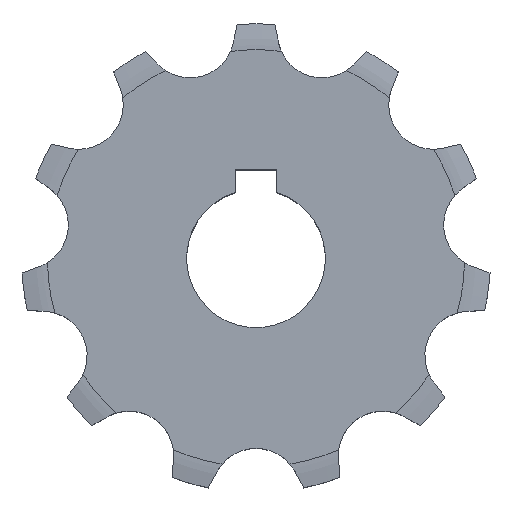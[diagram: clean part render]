
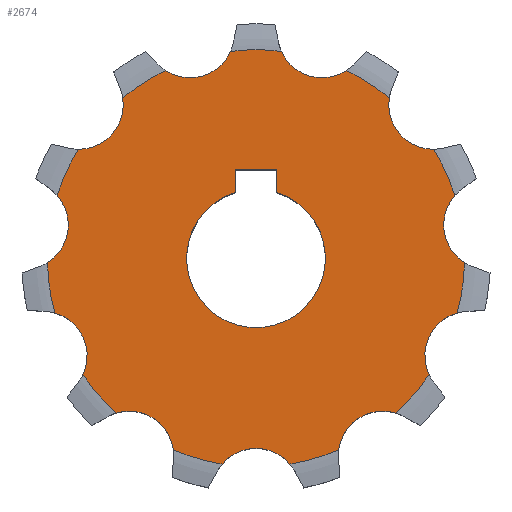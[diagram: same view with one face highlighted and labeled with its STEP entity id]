
A CAD part, top view. The second image highlights one B-rep face of the part: STEP entity #2674.
In plain terms, the highlighted planar face has unit normal (0, 0, 1).
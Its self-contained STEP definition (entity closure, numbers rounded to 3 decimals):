
#33=CARTESIAN_POINT('',(4.763,16.22,2.65));
#34=DIRECTION('',(0.,0.,1.));
#35=DIRECTION('',(-0.914,-0.405,0.));
#36=AXIS2_PLACEMENT_3D('',#33,#34,#35);
#42=CARTESIAN_POINT('',(0.,0.,2.65));
#43=DIRECTION('',(0.,0.,-1.));
#44=DIRECTION('',(0.434,0.901,0.));
#45=AXIS2_PLACEMENT_3D('',#42,#43,#44);
#50=CARTESIAN_POINT('',(12.775,11.07,2.65));
#51=DIRECTION('',(0.,0.,1.));
#52=DIRECTION('',(-0.988,0.154,0.));
#53=AXIS2_PLACEMENT_3D('',#50,#51,#52);
#58=CARTESIAN_POINT('',(0.,0.,2.65));
#59=DIRECTION('',(0.,0.,-1.));
#60=DIRECTION('',(0.852,0.523,0.));
#61=AXIS2_PLACEMENT_3D('',#58,#59,#60);
#66=CARTESIAN_POINT('',(16.732,2.406,2.65));
#67=DIRECTION('',(0.,0.,1.));
#68=DIRECTION('',(-0.748,0.663,0.));
#69=AXIS2_PLACEMENT_3D('',#66,#67,#68);
#74=CARTESIAN_POINT('',(0.,0.,2.65));
#75=DIRECTION('',(0.,0.,-1.));
#76=DIRECTION('',(1.,-0.021,0.));
#77=AXIS2_PLACEMENT_3D('',#74,#75,#76);
#82=CARTESIAN_POINT('',(15.377,-7.022,2.65));
#83=DIRECTION('',(0.,0.,1.));
#84=DIRECTION('',(-0.271,0.963,0.));
#85=AXIS2_PLACEMENT_3D('',#82,#83,#84);
#90=CARTESIAN_POINT('',(0.,0.,2.65));
#91=DIRECTION('',(0.,0.,-1.));
#92=DIRECTION('',(0.83,-0.558,0.));
#93=AXIS2_PLACEMENT_3D('',#90,#91,#92);
#98=CARTESIAN_POINT('',(9.139,-14.221,2.65));
#99=DIRECTION('',(0.,0.,1.));
#100=DIRECTION('',(0.293,0.956,0.));
#101=AXIS2_PLACEMENT_3D('',#98,#99,#100);
#106=CARTESIAN_POINT('',(0.,0.,2.65));
#107=DIRECTION('',(0.,0.,-1.));
#108=DIRECTION('',(0.396,-0.918,0.));
#109=AXIS2_PLACEMENT_3D('',#106,#107,#108);
#114=CARTESIAN_POINT('',(0.,-16.904,2.65));
#115=DIRECTION('',(0.,0.,1.));
#116=DIRECTION('',(0.763,0.646,0.));
#117=AXIS2_PLACEMENT_3D('',#114,#115,#116);
#122=CARTESIAN_POINT('',(0.,0.,2.65));
#123=DIRECTION('',(0.,0.,-1.));
#124=DIRECTION('',(-0.163,-0.987,0.));
#125=AXIS2_PLACEMENT_3D('',#122,#123,#124);
#130=CARTESIAN_POINT('',(-9.139,-14.221,2.65));
#131=DIRECTION('',(0.,0.,1.));
#132=DIRECTION('',(0.991,0.131,0.));
#133=AXIS2_PLACEMENT_3D('',#130,#131,#132);
#138=CARTESIAN_POINT('',(0.,0.,2.65));
#139=DIRECTION('',(0.,0.,-1.));
#140=DIRECTION('',(-0.67,-0.742,0.));
#141=AXIS2_PLACEMENT_3D('',#138,#139,#140);
#146=CARTESIAN_POINT('',(-15.377,-7.022,2.65));
#147=DIRECTION('',(0.,0.,1.));
#148=DIRECTION('',(0.905,-0.426,0.));
#149=AXIS2_PLACEMENT_3D('',#146,#147,#148);
#154=CARTESIAN_POINT('',(0.,0.,2.65));
#155=DIRECTION('',(0.,0.,-1.));
#156=DIRECTION('',(-0.965,-0.262,0.));
#157=AXIS2_PLACEMENT_3D('',#154,#155,#156);
#162=CARTESIAN_POINT('',(-16.732,2.406,2.65));
#163=DIRECTION('',(0.,0.,1.));
#164=DIRECTION('',(0.531,-0.847,0.));
#165=AXIS2_PLACEMENT_3D('',#162,#163,#164);
#170=CARTESIAN_POINT('',(0.,0.,2.65));
#171=DIRECTION('',(0.,0.,-1.));
#172=DIRECTION('',(-0.953,0.302,0.));
#173=AXIS2_PLACEMENT_3D('',#170,#171,#172);
#178=CARTESIAN_POINT('',(-12.775,11.07,2.65));
#179=DIRECTION('',(0.,0.,1.));
#180=DIRECTION('',(-0.011,-1.,0.));
#181=AXIS2_PLACEMENT_3D('',#178,#179,#180);
#186=CARTESIAN_POINT('',(0.,0.,2.65));
#187=DIRECTION('',(0.,0.,-1.));
#188=DIRECTION('',(-0.639,0.769,0.));
#189=AXIS2_PLACEMENT_3D('',#186,#187,#188);
#194=CARTESIAN_POINT('',(-4.763,16.22,2.65));
#195=DIRECTION('',(0.,0.,1.));
#196=DIRECTION('',(-0.55,-0.835,0.));
#197=AXIS2_PLACEMENT_3D('',#194,#195,#196);
#202=DIRECTION('',(0.,1.,0.));
#203=VECTOR('',#202,1.63);
#204=CARTESIAN_POINT('',(1.5,4.77,2.65));
#205=LINE('',#204,#203);
#209=DIRECTION('',(-1.,0.,0.));
#210=VECTOR('',#209,3.);
#211=CARTESIAN_POINT('',(1.5,6.4,2.65));
#212=LINE('',#211,#210);
#216=DIRECTION('',(0.,-1.,0.));
#217=VECTOR('',#216,1.63);
#218=CARTESIAN_POINT('',(-1.5,6.4,2.65));
#219=LINE('',#218,#217);
#255=CARTESIAN_POINT('',(0.,0.,2.65));
#256=DIRECTION('',(0.,0.,1.));
#257=DIRECTION('',(0.122,0.993,0.));
#258=AXIS2_PLACEMENT_3D('',#255,#256,#257);
#1067=CARTESIAN_POINT('',(0.,0.,2.65));
#1068=DIRECTION('',(0.,0.,-1.));
#1069=DIRECTION('',(0.3,0.954,0.));
#1070=AXIS2_PLACEMENT_3D('',#1067,#1068,#1069);
#1498=CARTESIAN_POINT('',(1.831,14.921,2.65));
#2325=CARTESIAN_POINT('',(6.527,13.542,2.65));
#2326=CARTESIAN_POINT('',(9.607,11.563,2.65));
#2327=VERTEX_POINT('',#2325);
#2328=VERTEX_POINT('',#2326);
#2329=CARTESIAN_POINT('',(12.812,7.863,2.65));
#2330=CARTESIAN_POINT('',(14.333,4.533,2.65));
#2331=VERTEX_POINT('',#2329);
#2332=VERTEX_POINT('',#2330);
#2333=CARTESIAN_POINT('',(15.029,-0.312,2.65));
#2334=CARTESIAN_POINT('',(14.508,-3.935,2.65));
#2335=VERTEX_POINT('',#2333);
#2336=VERTEX_POINT('',#2334);
#2337=CARTESIAN_POINT('',(-2.447,-14.832,2.65));
#2338=CARTESIAN_POINT('',(-5.96,-13.801,2.65));
#2339=VERTEX_POINT('',#2337);
#2340=VERTEX_POINT('',#2338);
#2341=CARTESIAN_POINT('',(-10.078,-11.154,2.65));
#2342=CARTESIAN_POINT('',(-12.475,-8.388,2.65));
#2343=VERTEX_POINT('',#2341);
#2344=VERTEX_POINT('',#2342);
#2345=CARTESIAN_POINT('',(-14.508,-3.935,2.65));
#2346=CARTESIAN_POINT('',(-15.029,-0.312,2.65));
#2347=VERTEX_POINT('',#2345);
#2348=VERTEX_POINT('',#2346);
#2349=CARTESIAN_POINT('',(-14.333,4.533,2.65));
#2350=CARTESIAN_POINT('',(-12.812,7.863,2.65));
#2351=VERTEX_POINT('',#2349);
#2352=VERTEX_POINT('',#2350);
#2382=VERTEX_POINT('',#1498);
#2405=CARTESIAN_POINT('',(12.475,-8.388,2.65));
#2406=VERTEX_POINT('',#2405);
#2409=CARTESIAN_POINT('',(10.078,-11.154,2.65));
#2410=CARTESIAN_POINT('',(5.96,-13.801,2.65));
#2411=VERTEX_POINT('',#2409);
#2412=VERTEX_POINT('',#2410);
#2417=CARTESIAN_POINT('',(2.447,-14.832,2.65));
#2418=VERTEX_POINT('',#2417);
#2441=CARTESIAN_POINT('',(-9.607,11.563,2.65));
#2442=CARTESIAN_POINT('',(-6.527,13.542,2.65));
#2443=VERTEX_POINT('',#2441);
#2444=VERTEX_POINT('',#2442);
#2549=CARTESIAN_POINT('',(-1.831,14.921,2.65));
#2550=VERTEX_POINT('',#2549);
#2561=CARTESIAN_POINT('',(1.5,4.77,2.65));
#2562=CARTESIAN_POINT('',(1.5,6.4,2.65));
#2563=VERTEX_POINT('',#2561);
#2564=VERTEX_POINT('',#2562);
#2565=CARTESIAN_POINT('',(-1.5,6.4,2.65));
#2566=VERTEX_POINT('',#2565);
#2567=CARTESIAN_POINT('',(-1.5,4.77,2.65));
#2568=VERTEX_POINT('',#2567);
#2613=CARTESIAN_POINT('',(0.,0.,2.65));
#2614=DIRECTION('',(0.,0.,1.));
#2615=DIRECTION('',(1.,0.,0.));
#2616=AXIS2_PLACEMENT_3D('',#2613,#2614,#2615);
#2617=PLANE('',#2616);
#2619=ORIENTED_EDGE('',*,*,#2618,.F.);
#2621=ORIENTED_EDGE('',*,*,#2620,.T.);
#2623=ORIENTED_EDGE('',*,*,#2622,.T.);
#2625=ORIENTED_EDGE('',*,*,#2624,.T.);
#2627=ORIENTED_EDGE('',*,*,#2626,.T.);
#2629=ORIENTED_EDGE('',*,*,#2628,.T.);
#2631=ORIENTED_EDGE('',*,*,#2630,.T.);
#2633=ORIENTED_EDGE('',*,*,#2632,.T.);
#2635=ORIENTED_EDGE('',*,*,#2634,.T.);
#2637=ORIENTED_EDGE('',*,*,#2636,.T.);
#2639=ORIENTED_EDGE('',*,*,#2638,.T.);
#2641=ORIENTED_EDGE('',*,*,#2640,.T.);
#2643=ORIENTED_EDGE('',*,*,#2642,.T.);
#2645=ORIENTED_EDGE('',*,*,#2644,.T.);
#2647=ORIENTED_EDGE('',*,*,#2646,.T.);
#2649=ORIENTED_EDGE('',*,*,#2648,.T.);
#2651=ORIENTED_EDGE('',*,*,#2650,.T.);
#2653=ORIENTED_EDGE('',*,*,#2652,.T.);
#2655=ORIENTED_EDGE('',*,*,#2654,.T.);
#2657=ORIENTED_EDGE('',*,*,#2656,.T.);
#2659=ORIENTED_EDGE('',*,*,#2658,.T.);
#2661=ORIENTED_EDGE('',*,*,#2660,.T.);
#2662=EDGE_LOOP('',(#2619,#2621,#2623,#2625,#2627,#2629,#2631,#2633,#2635,#2637,
#2639,#2641,#2643,#2645,#2647,#2649,#2651,#2653,#2655,#2657,#2659,#2661));
#2663=FACE_OUTER_BOUND('',#2662,.F.);
#2665=ORIENTED_EDGE('',*,*,#2664,.T.);
#2667=ORIENTED_EDGE('',*,*,#2666,.T.);
#2669=ORIENTED_EDGE('',*,*,#2668,.T.);
#2671=ORIENTED_EDGE('',*,*,#2670,.F.);
#2672=EDGE_LOOP('',(#2665,#2667,#2669,#2671));
#2673=FACE_BOUND('',#2672,.F.);
#2674=ADVANCED_FACE('',(#2663,#2673),#2617,.T.);
#37=CIRCLE('',#36,3.207);
#46=CIRCLE('',#45,15.033);
#54=CIRCLE('',#53,3.207);
#62=CIRCLE('',#61,15.033);
#70=CIRCLE('',#69,3.207);
#78=CIRCLE('',#77,15.033);
#86=CIRCLE('',#85,3.207);
#94=CIRCLE('',#93,15.033);
#102=CIRCLE('',#101,3.207);
#110=CIRCLE('',#109,15.033);
#118=CIRCLE('',#117,3.207);
#126=CIRCLE('',#125,15.033);
#134=CIRCLE('',#133,3.207);
#142=CIRCLE('',#141,15.033);
#150=CIRCLE('',#149,3.207);
#158=CIRCLE('',#157,15.033);
#166=CIRCLE('',#165,3.207);
#174=CIRCLE('',#173,15.033);
#182=CIRCLE('',#181,3.207);
#190=CIRCLE('',#189,15.033);
#198=CIRCLE('',#197,3.207);
#259=CIRCLE('',#258,15.033);
#1071=CIRCLE('',#1070,5.);
#2618=EDGE_CURVE('',#2382,#2550,#259,.T.);
#2620=EDGE_CURVE('',#2382,#2327,#37,.T.);
#2622=EDGE_CURVE('',#2327,#2328,#46,.T.);
#2624=EDGE_CURVE('',#2328,#2331,#54,.T.);
#2626=EDGE_CURVE('',#2331,#2332,#62,.T.);
#2628=EDGE_CURVE('',#2332,#2335,#70,.T.);
#2630=EDGE_CURVE('',#2335,#2336,#78,.T.);
#2632=EDGE_CURVE('',#2336,#2406,#86,.T.);
#2634=EDGE_CURVE('',#2406,#2411,#94,.T.);
#2636=EDGE_CURVE('',#2411,#2412,#102,.T.);
#2638=EDGE_CURVE('',#2412,#2418,#110,.T.);
#2640=EDGE_CURVE('',#2418,#2339,#118,.T.);
#2642=EDGE_CURVE('',#2339,#2340,#126,.T.);
#2644=EDGE_CURVE('',#2340,#2343,#134,.T.);
#2646=EDGE_CURVE('',#2343,#2344,#142,.T.);
#2648=EDGE_CURVE('',#2344,#2347,#150,.T.);
#2650=EDGE_CURVE('',#2347,#2348,#158,.T.);
#2652=EDGE_CURVE('',#2348,#2351,#166,.T.);
#2654=EDGE_CURVE('',#2351,#2352,#174,.T.);
#2656=EDGE_CURVE('',#2352,#2443,#182,.T.);
#2658=EDGE_CURVE('',#2443,#2444,#190,.T.);
#2660=EDGE_CURVE('',#2444,#2550,#198,.T.);
#2664=EDGE_CURVE('',#2563,#2564,#205,.T.);
#2666=EDGE_CURVE('',#2564,#2566,#212,.T.);
#2668=EDGE_CURVE('',#2566,#2568,#219,.T.);
#2670=EDGE_CURVE('',#2563,#2568,#1071,.T.);
